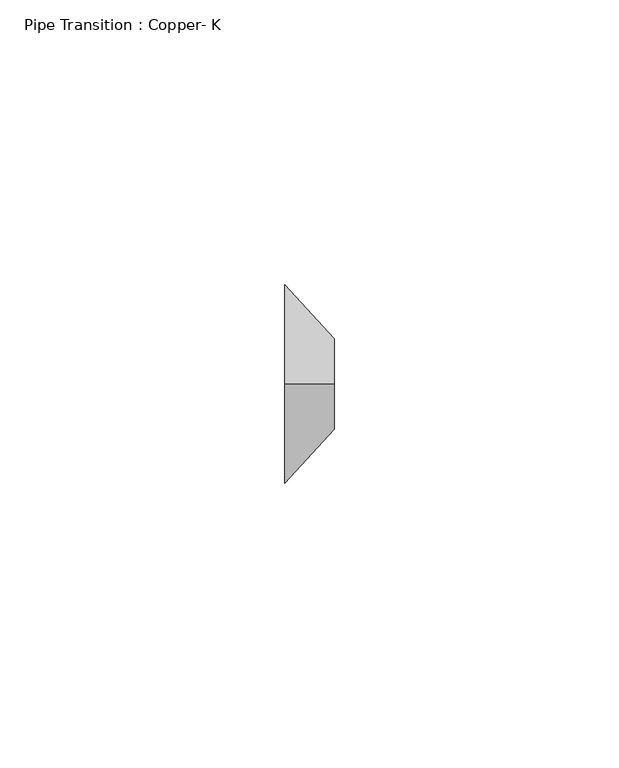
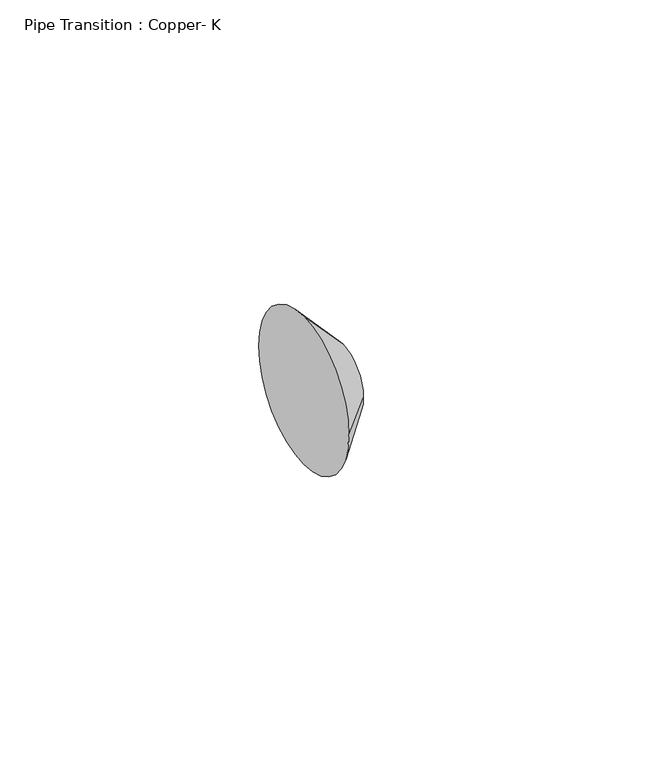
"""IFC4 building model written with IfcOpenShell, lengths in millimetres: pipe fitting geometry, Pipe Transition : Copper- K."""

from ifc_helpers import new_model, si_unit, frame, origin, place, context, project, spatial, polyline, circle_curve, source, transform, mapped, element, save
from ifc_brep_helpers import plane_surface, revolved_surface, advanced_brep


def pipe_transition_copper_k_4b29cc47(model_context):
    return source(origin(), model_context, "Body", "AdvancedBrep", [
        advanced_brep(
        [(8.73125, 0.0, 7.9375), (8.73125, -7.9375, 0.0), (8.73125, 0.0, -7.9375), (8.73125, 7.9375, 0.0), (0.0, 0.0, 17.4625), (0.0, 17.4625, 0.0), (0.0, 0.0, -17.4625), (0.0, -17.4625, 0.0)],
        [
            (0, 1, circle_curve(frame((8.73125, 0.0, 0.0), z_axis=(1.0, 0.0, 0.0), x_axis=(0.0, -1.0, 0.0)), 7.9375)),
            (1, 2, circle_curve(frame((8.73125, 0.0, 0.0), z_axis=(1.0, 0.0, 0.0), x_axis=(0.0, 0.0, -1.0)), 7.9375)),
            (2, 3, circle_curve(frame((8.73125, 0.0, 0.0), z_axis=(1.0, 0.0, 0.0), x_axis=(0.0, 1.0, 0.0)), 7.9375)),
            (3, 0, circle_curve(frame((8.73125, 0.0, 0.0), z_axis=(1.0, 0.0, 0.0), x_axis=(0.0, 0.0, 1.0)), 7.9375)),
            (4, 5, circle_curve(frame((0.0, 0.0, 0.0), z_axis=(-1.0, 0.0, 0.0), x_axis=(0.0, 0.0, 1.0)), 17.4625)),
            (5, 6, circle_curve(frame((0.0, 0.0, 0.0), z_axis=(-1.0, 0.0, 0.0), x_axis=(0.0, 1.0, 0.0)), 17.4625)),
            (6, 7, circle_curve(frame((0.0, 0.0, 0.0), z_axis=(-1.0, 0.0, 0.0), x_axis=(0.0, 0.0, -1.0)), 17.4625)),
            (7, 4, circle_curve(frame((0.0, 0.0, 0.0), z_axis=(-1.0, 0.0, 0.0), x_axis=(0.0, -1.0, 0.0)), 17.4625)),
            (4, 0),
            (3, 5),
            (2, 6),
            (1, 7),
        ],
        [
            plane_surface(frame((8.73125, 0.0, 0.0), z_axis=(1.0, 0.0, 0.0), x_axis=(0.0, 1.0, 0.0))),
            plane_surface(frame((0.0, 0.0, 0.0), z_axis=(-1.0, 0.0, 0.0), x_axis=(0.0, 1.0, 0.0))),
            revolved_surface(polyline([(8.73125, 0.0, 7.937500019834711), (0.0, 0.0, 17.4625)]), (16.0072917, 0.0, 0.0), (-1.0, 0.0, 0.0)),
            revolved_surface(polyline([(8.73125, 7.937500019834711, 0.0), (0.0, 17.4625, 0.0)]), (16.0072917, 0.0, 0.0), (-1.0, 0.0, 0.0)),
            revolved_surface(polyline([(8.73125, 0.0, -7.937500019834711), (0.0, 0.0, -17.4625)]), (16.0072917, 0.0, 0.0), (-1.0, 0.0, 0.0)),
            revolved_surface(polyline([(8.73125, -7.937500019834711, 0.0), (0.0, -17.4625, 0.0)]), (16.0072917, 0.0, 0.0), (-1.0, 0.0, 0.0)),
        ],
        [
            (0, [[1, 2, 3, 4]]),
            (1, [[5, 6, 7, 8]]),
            (2, [[9, -4, 10, -5]]),
            (3, [[-10, -3, 11, -6]]),
            (4, [[-11, -2, 12, -7]]),
            (5, [[-12, -1, -9, -8]]),
        ],
    ),
        advanced_brep(
        [(8.73125, 0.0, 7.9375), (8.73125, -7.9375, 0.0), (8.73125, 0.0, -7.9375), (8.73125, 7.9375, 0.0), (0.0, 0.0, 17.4625), (0.0, 17.4625, 0.0), (0.0, 0.0, -17.4625), (0.0, -17.4625, 0.0)],
        [
            (0, 1, circle_curve(frame((8.73125, 0.0, 0.0), z_axis=(1.0, 0.0, 0.0), x_axis=(0.0, -1.0, 0.0)), 7.9375)),
            (1, 2, circle_curve(frame((8.73125, 0.0, 0.0), z_axis=(1.0, 0.0, -1.4977782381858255e-12), x_axis=(-1.497809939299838e-12, 0.0, -1.0)), 7.9375)),
            (2, 3, circle_curve(frame((8.73125, 0.0, 0.0), z_axis=(1.0, 0.0, 0.0), x_axis=(0.0, 1.0, 0.0)), 7.9375)),
            (3, 0, circle_curve(frame((8.73125, 0.0, 0.0), z_axis=(1.0, 0.0, 0.0), x_axis=(0.0, 0.0, 1.0)), 7.9375)),
            (4, 5, circle_curve(frame((0.0, 0.0, 0.0), z_axis=(-1.0, 0.0, 0.0), x_axis=(0.0, 0.0, 1.0)), 17.4625)),
            (5, 6, circle_curve(frame((0.0, 0.0, 0.0), z_axis=(-1.0, 0.0, 0.0), x_axis=(0.0, 1.0, 0.0)), 17.4625)),
            (6, 7, circle_curve(frame((0.0, 0.0, 0.0), z_axis=(-1.0, 0.0, 1.4977782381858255e-12), x_axis=(-1.497809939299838e-12, 0.0, -1.0)), 17.4625)),
            (7, 4, circle_curve(frame((0.0, 0.0, 0.0), z_axis=(-1.0, 0.0, 0.0), x_axis=(0.0, -1.0, 0.0)), 17.4625)),
            (4, 0),
            (3, 5),
            (2, 6),
            (1, 7),
        ],
        [
            plane_surface(frame((8.73125, 0.0, 0.0), z_axis=(1.0, 0.0, 0.0), x_axis=(0.0, 1.0, 0.0))),
            plane_surface(frame((0.0, 0.0, 0.0), z_axis=(-1.0, 0.0, 0.0), x_axis=(0.0, 1.0, 0.0))),
            revolved_surface(polyline([(8.73125, 0.0, 7.937500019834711), (0.0, 0.0, 17.4625)]), (16.0072917, 0.0, 0.0), (-1.0, 0.0, 0.0)),
            revolved_surface(polyline([(8.73125, 7.937500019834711, 0.0), (0.0, 17.4625, 0.0)]), (16.0072917, 0.0, 0.0), (-1.0, 0.0, 0.0)),
            revolved_surface(polyline([(8.73125, 0.0, -7.937500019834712), (-2.6155078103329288e-11, 0.0, -17.462500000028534)]), (16.0072917, 0.0, 0.0), (-1.0, 0.0, 1.4977782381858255e-12)),
            revolved_surface(polyline([(8.73125, -7.937500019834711, 0.0), (0.0, -17.4625, 0.0)]), (16.0072917, 0.0, 0.0), (-1.0, 0.0, 0.0)),
        ],
        [
            (0, [[1, 2, 3, 4]]),
            (1, [[5, 6, 7, 8]]),
            (2, [[9, -4, 10, -5]]),
            (3, [[-10, -3, 11, -6]]),
            (4, [[-11, -2, 12, -7]]),
            (5, [[-12, -1, -9, -8]]),
        ],
    ),
    ])


if __name__ == "__main__":
    model = new_model("IFC4")
    model_context = context("Model", 3, world=origin())
    ifc_project = project(units=[si_unit("LENGTHUNIT", "METRE", prefix="MILLI")], contexts=[model_context])
    site = spatial("IfcSite", under=ifc_project)
    building = spatial("IfcBuilding", under=site)
    placement = place(None, origin())
    pipe_transition_copper_k_shape = pipe_transition_copper_k_4b29cc47(model_context)
    element("IfcPipeFitting", 1, ObjectType="Pipe Transition : Copper- K", at=placement, inside=building, context=model_context, shape_type="MappedRepresentation", body=[
        mapped(pipe_transition_copper_k_shape, transform((0.0, 0.0, 0.0), x_axis=(1.0, 0.0, 0.0), y_axis=(0.0, 1.0, 0.0), z_axis=(0.0, 0.0, 1.0))),
    ])
    save(model, "model.ifc")
